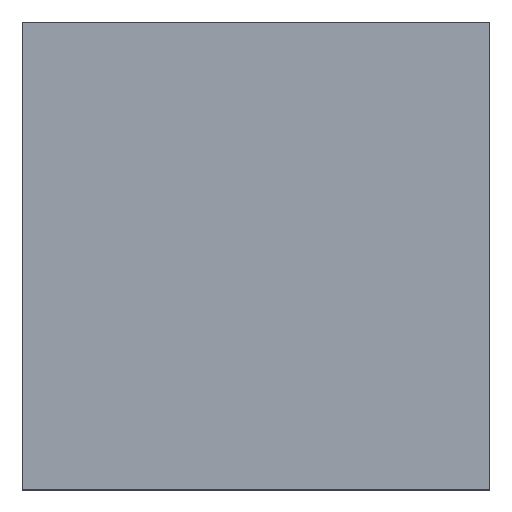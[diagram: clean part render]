
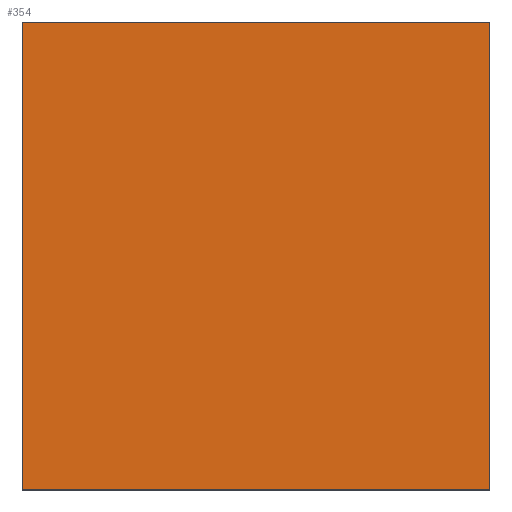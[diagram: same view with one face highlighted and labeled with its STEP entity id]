
A CAD part, top view. The second image highlights one B-rep face of the part: STEP entity #354.
In plain terms, the highlighted planar face has unit normal (0, 0, 1).
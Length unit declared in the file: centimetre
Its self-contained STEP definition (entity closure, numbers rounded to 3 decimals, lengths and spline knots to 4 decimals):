
#5 = LINE ( 'NONE', #772, #614 ) ;
#29 = EDGE_CURVE ( 'NONE', #291, #638, #121, .T. ) ;
#43 = ORIENTED_EDGE ( 'NONE', *, *, #522, .T. ) ;
#44 = LINE ( 'NONE', #229, #150 ) ;
#49 = VERTEX_POINT ( 'NONE', #583 ) ;
#77 = DIRECTION ( 'NONE',  ( 0., -1., 0. ) ) ;
#93 = EDGE_CURVE ( 'NONE', #638, #240, #5, .T. ) ;
#112 = DIRECTION ( 'NONE',  ( -1., 0., 0. ) ) ;
#121 = LINE ( 'NONE', #700, #124 ) ;
#124 = VECTOR ( 'NONE', #353, 100. ) ;
#138 = VECTOR ( 'NONE', #77, 100. ) ;
#150 = VECTOR ( 'NONE', #184, 100. ) ;
#162 = EDGE_LOOP ( 'NONE', ( #425, #43, #453, #284 ) ) ;
#167 = CARTESIAN_POINT ( 'NONE',  ( 1000., 0., 1000. ) ) ;
#181 = LINE ( 'NONE', #651, #138 ) ;
#184 = DIRECTION ( 'NONE',  ( 1., 0., 0. ) ) ;
#229 = CARTESIAN_POINT ( 'NONE',  ( 0., 0., 1000. ) ) ;
#240 = VERTEX_POINT ( 'NONE', #670 ) ;
#268 = PLANE ( 'NONE',  #309 ) ;
#284 = ORIENTED_EDGE ( 'NONE', *, *, #93, .T. ) ;
#291 = VERTEX_POINT ( 'NONE', #167 ) ;
#309 = AXIS2_PLACEMENT_3D ( 'NONE', #696, #634, #328 ) ;
#312 = CARTESIAN_POINT ( 'NONE',  ( 1000., 1000., 1000. ) ) ;
#328 = DIRECTION ( 'NONE',  ( 1., 0., 0. ) ) ;
#353 = DIRECTION ( 'NONE',  ( 0., 1., 0. ) ) ;
#354 = ADVANCED_FACE ( 'NONE', ( #755 ), #268, .T. ) ;
#425 = ORIENTED_EDGE ( 'NONE', *, *, #571, .T. ) ;
#453 = ORIENTED_EDGE ( 'NONE', *, *, #29, .T. ) ;
#522 = EDGE_CURVE ( 'NONE', #49, #291, #44, .T. ) ;
#571 = EDGE_CURVE ( 'NONE', #240, #49, #181, .T. ) ;
#583 = CARTESIAN_POINT ( 'NONE',  ( 0., 0., 1000. ) ) ;
#614 = VECTOR ( 'NONE', #112, 100. ) ;
#634 = DIRECTION ( 'NONE',  ( 0., 0., 1. ) ) ;
#638 = VERTEX_POINT ( 'NONE', #312 ) ;
#651 = CARTESIAN_POINT ( 'NONE',  ( 0., 1000., 1000. ) ) ;
#670 = CARTESIAN_POINT ( 'NONE',  ( 0., 1000., 1000. ) ) ;
#696 = CARTESIAN_POINT ( 'NONE',  ( 0., 0., 1000. ) ) ;
#700 = CARTESIAN_POINT ( 'NONE',  ( 1000., 1000., 1000. ) ) ;
#755 = FACE_OUTER_BOUND ( 'NONE', #162, .T. ) ;
#772 = CARTESIAN_POINT ( 'NONE',  ( 0., 1000., 1000. ) ) ;
